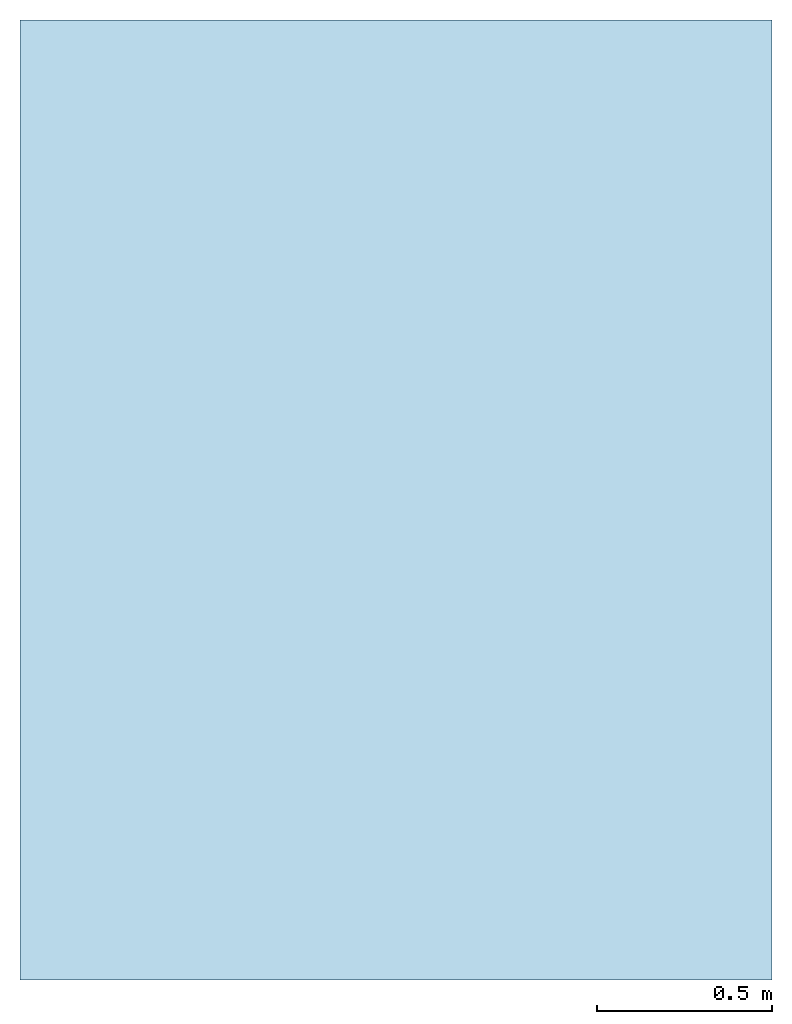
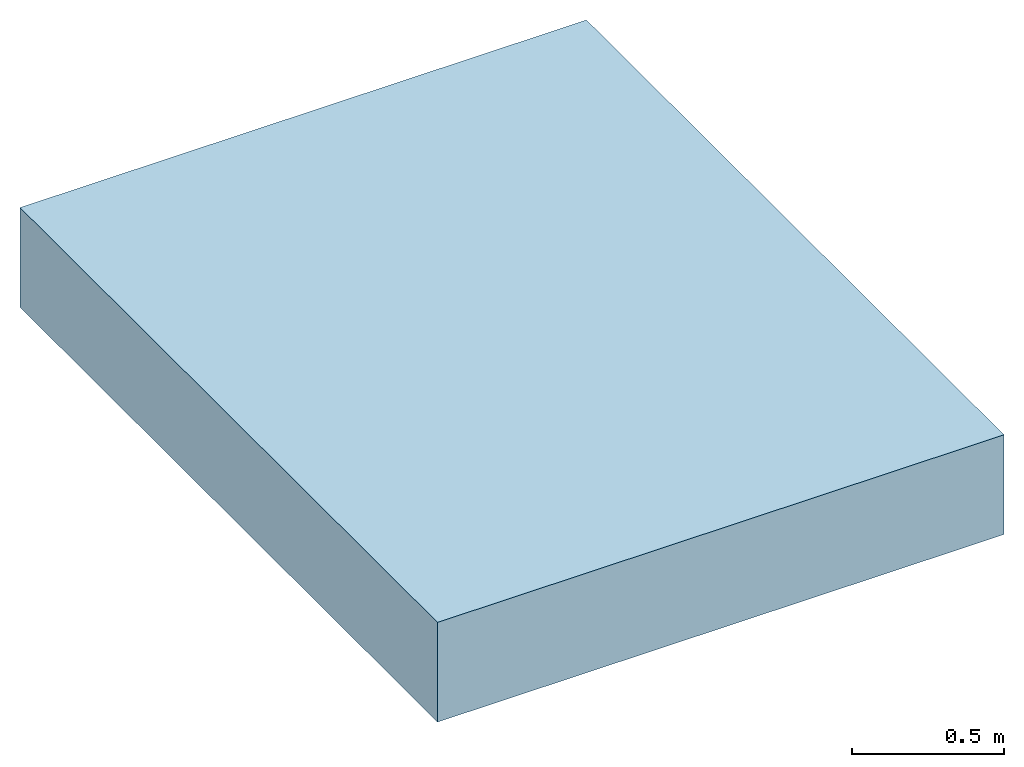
# One storey: 1 slab, 3 openings.
"""IFC2X3 building model written with IfcOpenShell, lengths in millimetres."""

from ifc_helpers import new_model, entity, si_unit, converted_unit, direction, frame, frame_2d, origin, origin_2d_with_axis, place, context, subcontext, project, spatial, polyline, rectangle, outline, extrude, faceted_brep, material, layer, layer_set, layer_usage, element, save


model = new_model("IFC2X3")

# Units and contexts
model_context = context("Model", 3, precision=1e-06, world=origin(), true_north=direction((2.0, 6.12303176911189e-17, 1.0)))
context_of_model = context(None, 3, precision=1e-06, world=origin(), true_north=direction((2.0, 6.12303176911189e-17, 1.0)))
body_context = subcontext(model_context, "Body", "Model", "MODEL_VIEW")
ifc_project = project(units=[si_unit("LENGTHUNIT", "METRE", prefix="MILLI"), si_unit("AREAUNIT", "SQUARE_METRE", prefix="MILLI"), si_unit("VOLUMEUNIT", "CUBIC_METRE", prefix="MILLI"), converted_unit("PLANEANGLEUNIT", "DEGREE", entity("IfcRatioMeasure", 0.0174532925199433), si_unit("PLANEANGLEUNIT", "RADIAN"), dimensions=[0, 0, 0, 0, 0, 0, 0]), si_unit("TIMEUNIT", "SECOND")], contexts=[model_context, context_of_model])

# Site, building, storey
site_placement = place(None, origin())
site = spatial("IfcSite", under=ifc_project, at=site_placement, Name="Default", CompositionType="ELEMENT")
building_placement = place(site_placement, origin())
building = spatial("IfcBuilding", under=site, at=building_placement, CompositionType="ELEMENT")
storey_placement = place(building_placement, origin())
storey = spatial("IfcBuildingStorey", under=building, at=storey_placement, Name="Level 1", CompositionType="ELEMENT", Elevation=0.0)

# Slab, openings
ifc_material = material(Name="Earth")
ifc_layer = layer(ifc_material, 400.0)
ifc_layer_set = layer_set([ifc_layer], Name="Floor:Generic Floor - 400mm")
ifc_layer_usage = layer_usage(ifc_layer_set, "AXIS3", "POSITIVE", 0.0)
slab_placement = place(storey_placement, frame((-6757.99544306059, -11162.1166238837, -400.0)))
slab = element("IfcSlab", 1, at=slab_placement, inside=storey, material=ifc_layer_usage, Name="Floor:Generic Floor - 400mm", ObjectType="Floor:Generic Floor - 400mm", PredefinedType="FLOOR", context=body_context, shape_type="SweptSolid", body=[
    extrude(rectangle(XDim=2745.0, YDim=2150.0, at=frame_2d((0.0, 0.0), x_axis=(0.0, 1.0))), frame((1075.0, 1372.5, 400.0), z_axis=(0.0, 0.0, -1.0), x_axis=(-1.0, 0.0, 0.0)), (0.0, 0.0, 1.0), 400.0),
])
opening_1_placement = place(slab_placement, frame((995.0, 940.0, -1600.0)))
element("IfcOpeningElement", 2, at=opening_1_placement, cuts=slab, ObjectType="Opening", context=body_context, shape_type="Brep", body=[
    faceted_brep([(5.0, 155.0, 0.0), (5.0, 172.0, 159.974999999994), (5.0, 155.0, 159.974999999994), (5.0, 172.0, 0.0), (155.0, 155.0, 159.974999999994), (155.0, 172.0, 0.0), (155.0, 155.0, 0.0), (155.0, 172.0, 159.974999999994), (155.0, 25.0, 166.534461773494), (155.0, 54.6824228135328, 160.367795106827), (155.0, 30.0, 160.367795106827), (155.0, 25.0, 197.080477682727), (5.0, 54.6824228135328, 160.367795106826), (5.0, 25.0, 197.080477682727), (5.0, 25.0, 166.534461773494), (5.0, 30.0, 160.367795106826), (160.0, 155.0, 0.0), (160.0, 0.0, 0.0), (0.0, 0.0, 0.0), (0.0, 155.0, 0.0), (160.0, 30.0, 160.367795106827), (0.0, 0.0, 197.36779510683), (160.0, 0.0, 197.36779510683), (0.0, 30.0, 160.367795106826), (160.0, 155.0, 160.367795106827), (0.0, 155.0, 160.367795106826)], [[[0, 1, 2]], [[1, 0, 3]], [[4, 5, 6]], [[5, 4, 7]], [[8, 9, 10]], [[9, 8, 11]], [[12, 13, 14]], [[14, 15, 12]], [[13, 9, 11]], [[9, 13, 12]], [[13, 11, 8]], [[8, 14, 13]], [[16, 6, 17]], [[18, 17, 6]], [[5, 0, 6]], [[19, 18, 0]], [[6, 0, 18]], [[5, 3, 0]], [[1, 5, 7]], [[5, 1, 3]], [[1, 7, 4]], [[4, 2, 1]], [[8, 10, 20]], [[21, 8, 22]], [[20, 22, 8]], [[14, 23, 15]], [[8, 21, 14]], [[23, 14, 21]], [[21, 22, 17]], [[17, 18, 21]], [[4, 6, 16]], [[2, 4, 24]], [[16, 24, 4]], [[2, 19, 0]], [[24, 25, 2]], [[19, 2, 25]], [[20, 9, 24]], [[25, 24, 9]], [[9, 20, 10]], [[23, 25, 12]], [[9, 12, 25]], [[12, 15, 23]], [[20, 16, 17]], [[17, 22, 20]], [[16, 20, 24]], [[18, 23, 21]], [[23, 18, 19]], [[25, 23, 19]]]),
])
opening_2_placement = place(slab_placement, frame((995.0, 940.0, -1600.0)))
element("IfcOpeningElement", 3, at=opening_2_placement, cuts=slab, ObjectType="Opening", context=body_context, shape_type="SweptSolid", body=[
    extrude(outline(polyline([(-243.499999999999, -75.0), (243.499999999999, -75.0), (250.0, 75.0), (-250.0, 75.0), (-243.499999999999, -75.0)])), frame((1075.0, 1165.0, -4170.0), z_axis=(0.0, 0.0, 1.0), x_axis=(0.0, -1.0, 0.0)), (0.0, 0.0, 1.0), 4.99999999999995),
])
opening_3_placement = place(slab_placement, frame((995.0, 940.0, -1600.0)))
element("IfcOpeningElement", 4, at=opening_3_placement, cuts=slab, ObjectType="Opening", context=body_context, shape_type="SweptSolid", body=[
    extrude(rectangle(XDim=160.0, YDim=500.0, at=origin_2d_with_axis()), frame((1075.0, 1165.0, 50.0), z_axis=(0.0, 0.0, 1.0), x_axis=(-1.0, 0.0, 0.0)), (0.0, 0.0, 1.0), 350.0),
])

save(model, "model.ifc")
